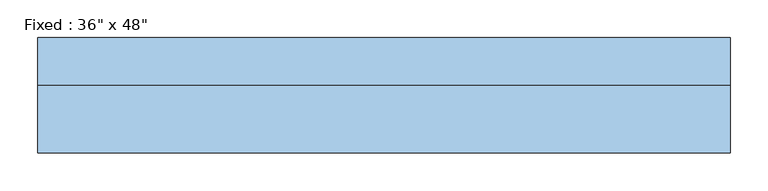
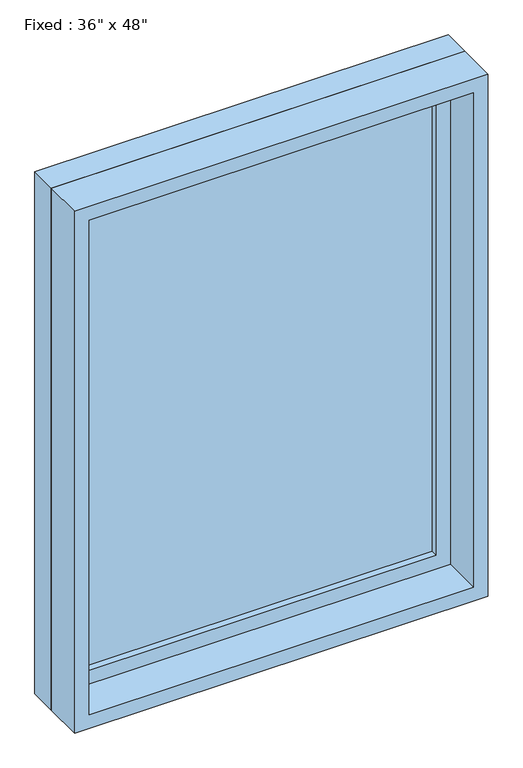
"""IFC4 building model written with IfcOpenShell, lengths in millimetres: window geometry."""

import ifcopenshell
import ifcopenshell.guid

model = None  # the IFC model being written
_history = None  # IfcOwnerHistory: only IFC2X3 demands one
_inside = {}  # id of a spatial element -> (the spatial element, [elements in it])
_under = {}  # id of a project, library or spatial element -> (it, [spatial elements below it])
_declared = {}  # id of a project -> (the project, [libraries it declares])
_typed = {}  # id of a type object -> (the type object, [elements of that type])
_made_of = {}  # id of a material, layer set ... -> (it, [elements and type objects made of it])


def new_model(schema):
    """Start an empty IFC model of exactly this schema.

    Asked for "IFC4X3", IfcOpenShell would pick the latest addendum, in which some entities
    have other attributes; the version numbers below select the first issue.
    IFC2X3 requires an IfcOwnerHistory on every rooted entity: one is made here for all.
    """
    global model, _history
    if schema == "IFC4X3":
        model = ifcopenshell.file(schema_version=(4, 3, 0, 0))
    else:
        model = ifcopenshell.file(schema=schema)
    _inside.clear()
    _under.clear()
    _declared.clear()
    _typed.clear()
    _made_of.clear()
    _history = None
    if model.schema == "IFC2X3":
        org = make("IfcOrganization", Name="unknown")
        user = make(
            "IfcPersonAndOrganization",
            ThePerson=make("IfcPerson", FamilyName="unknown"),
            TheOrganization=org,
        )
        app = make(
            "IfcApplication",
            ApplicationDeveloper=org,
            Version="unknown",
            ApplicationFullName="unknown",
            ApplicationIdentifier="unknown",
        )
        _history = make(
            "IfcOwnerHistory",
            OwningUser=user,
            OwningApplication=app,
            ChangeAction="ADDED",
            CreationDate=0,
        )
    return model


def make(cls, **values):
    """One entity of the class cls with the attributes given. An attribute that is None is left unset."""
    return model.create_entity(
        cls, **{name: value for name, value in values.items() if value is not None}
    )


def rooted(cls, **values):
    """An entity with a GlobalId (a new one), such as an element, a storey or a relation."""
    return make(cls, GlobalId=ifcopenshell.guid.new(), OwnerHistory=_history, **values)


def si_unit(unit_type, name, prefix=None):
    """IfcSIUnit, for example si_unit("LENGTHUNIT", "METRE", prefix="MILLI")."""
    return make("IfcSIUnit", UnitType=unit_type, Prefix=prefix, Name=name)


def assignment(units):
    """IfcUnitAssignment: the units of a project."""
    return None if units is None else make("IfcUnitAssignment", Units=units)


def point(xyz):
    """IfcCartesianPoint."""
    return None if xyz is None else make("IfcCartesianPoint", Coordinates=xyz)


def direction(xyz):
    """IfcDirection."""
    return None if xyz is None else make("IfcDirection", DirectionRatios=xyz)


def frame(location, z_axis=None, x_axis=None):
    """IfcAxis2Placement3D, a coordinate frame: its origin and axes. An axis left out is left unset."""
    return make(
        "IfcAxis2Placement3D",
        Location=point(location),
        Axis=direction(z_axis),
        RefDirection=direction(x_axis),
    )


def origin():
    """The frame at (0, 0, 0) with its axes left unset."""
    return frame((0.0, 0.0, 0.0))


def place(relative_to, where):
    """IfcLocalPlacement: puts the frame where relative to a parent placement (None: the world)."""
    return make(
        "IfcLocalPlacement", PlacementRelTo=relative_to, RelativePlacement=where
    )


def context(
    kind, dimensions, precision=None, world=None, true_north=None, identifier=None
):
    """IfcGeometricRepresentationContext, for example the 3D "Model" context."""
    return make(
        "IfcGeometricRepresentationContext",
        ContextIdentifier=identifier,
        ContextType=kind,
        CoordinateSpaceDimension=dimensions,
        Precision=precision,
        WorldCoordinateSystem=world,
        TrueNorth=true_north,
    )


def project(units=None, contexts=None):
    """IfcProject with its units and contexts."""
    return rooted(
        "IfcProject",
        Name="project",
        RepresentationContexts=contexts,
        UnitsInContext=assignment(units),
    )


def spatial(cls, under=None, at=None, **own):
    """A site, building, storey or space (cls), placed at a placement, below another one or the project."""
    s = rooted(cls, ObjectPlacement=at, **own)
    if under is not None:
        _under.setdefault(under.id(), (under, []))[1].append(s)
    return s


def polyline(points):
    """IfcPolyline through the points."""
    return make("IfcPolyline", Points=[point(p) for p in points])


def outline(outer, holes=None, kind="AREA"):
    """IfcArbitraryClosedProfileDef: a profile drawn as a closed curve; with holes, ...WithVoids."""
    if holes is None:
        return make("IfcArbitraryClosedProfileDef", ProfileType=kind, OuterCurve=outer)
    return make(
        "IfcArbitraryProfileDefWithVoids",
        ProfileType=kind,
        OuterCurve=outer,
        InnerCurves=holes,
    )


def extrude(swept, where, along, depth):
    """IfcExtrudedAreaSolid: the profile swept, set in the frame where, extruded along a direction by depth."""
    return make(
        "IfcExtrudedAreaSolid",
        SweptArea=swept,
        Position=where,
        ExtrudedDirection=direction(along),
        Depth=depth,
    )


def shape(context_of_items, identifier, shape_type, items):
    """IfcShapeRepresentation: the items that make up one representation, for example the "Body"."""
    return make(
        "IfcShapeRepresentation",
        ContextOfItems=context_of_items,
        RepresentationIdentifier=identifier,
        RepresentationType=shape_type,
        Items=items,
    )


def source(mapping_origin, context_of_items, identifier, shape_type, items):
    """IfcRepresentationMap: a shape defined once, which mapped items show again and again."""
    return make(
        "IfcRepresentationMap",
        MappingOrigin=mapping_origin,
        MappedRepresentation=shape(context_of_items, identifier, shape_type, items),
    )


def transform(
    local_origin,
    x_axis=None,
    y_axis=None,
    z_axis=None,
    scale=None,
    scale2=None,
    scale3=None,
    uniform=True,
):
    """IfcCartesianTransformationOperator3D, or its non-uniform kind. x_axis, y_axis, z_axis: its Axis1, 2, 3."""
    if uniform:
        return make(
            "IfcCartesianTransformationOperator3D",
            Axis1=direction(x_axis),
            Axis2=direction(y_axis),
            LocalOrigin=point(local_origin),
            Scale=scale,
            Axis3=direction(z_axis),
        )
    return make(
        "IfcCartesianTransformationOperator3DnonUniform",
        Axis1=direction(x_axis),
        Axis2=direction(y_axis),
        LocalOrigin=point(local_origin),
        Scale=scale,
        Axis3=direction(z_axis),
        Scale2=scale2,
        Scale3=scale3,
    )


def mapped(mapping_source, mapping_target):
    """IfcMappedItem: shows the shape of a source again, moved by a transform."""
    return make(
        "IfcMappedItem", MappingSource=mapping_source, MappingTarget=mapping_target
    )


def made_of(thing, what):
    """Note that an element or type object is made of a material, layer set ...; save() writes the relation."""
    if what is not None:
        _made_of.setdefault(what.id(), (what, []))[1].append(thing)
    return thing


def element(
    cls,
    number,
    at=None,
    inside=None,
    cuts=None,
    type_object=None,
    material=None,
    context=None,
    identifier="Body",
    shape_type=None,
    held_by="IfcProductDefinitionShape",
    body=None,
    shapes=None,
    **own,
):
    """One element of the class cls, such as IfcWall. Its Tag is "e" and its number.

    at: its placement. inside: the storey or other place that contains it. cuts: it is an
    opening in that element (IfcRelVoidsElement). A single representation is given by context,
    identifier, shape_type and body (its items); several are given by shapes. held_by: the class
    of the entity that holds the representations. save() writes the other relations.
    """
    e = rooted(cls, Tag="e%d" % number, ObjectPlacement=at, **own)
    if body is not None:
        shapes = [shape(context, identifier, shape_type, body)]
    if shapes is not None:
        e.Representation = make(held_by, Representations=shapes)
    if inside is not None:
        _inside.setdefault(inside.id(), (inside, []))[1].append(e)
    if cuts is not None:
        rooted(
            "IfcRelVoidsElement", RelatingBuildingElement=cuts, RelatedOpeningElement=e
        )
    if type_object is not None:
        _typed.setdefault(type_object.id(), (type_object, []))[1].append(e)
    return made_of(e, material)


def aggregate(whole, parts):
    """IfcRelAggregates: a whole, such as a stair, and the parts it consists of."""
    return rooted("IfcRelAggregates", RelatingObject=whole, RelatedObjects=parts)


def save(model, path):
    """Write the relations noted so far, then the file.

    IfcRelAggregates (storeys below a building ...), IfcRelContainedInSpatialStructure (elements
    in a storey), IfcRelDefinesByType, IfcRelAssociatesMaterial and IfcRelDeclares: one each for
    every whole, place, type object, material and project.
    """
    for whole, parts in _under.values():
        aggregate(whole, parts)
    for where, things in _inside.values():
        rooted(
            "IfcRelContainedInSpatialStructure",
            RelatedElements=things,
            RelatingStructure=where,
        )
    for kind, things in _typed.values():
        rooted("IfcRelDefinesByType", RelatedObjects=things, RelatingType=kind)
    for what, things in _made_of.values():
        rooted("IfcRelAssociatesMaterial", RelatedObjects=things, RelatingMaterial=what)
    for by, libraries in _declared.values():
        rooted("IfcRelDeclares", RelatingContext=by, RelatedDefinitions=libraries)
    model.write(path)


def window_d657a5cb(model_context):
    return source(origin(), model_context, "Body", "SweptSolid", [
        extrude(outline(polyline([(355.6, 28.575), (-431.8, 28.575), (-431.8, 41.275), (355.6, 41.275), (355.6, 28.575)])), frame((0.0, 0.0, 977.9), z_axis=(0.0, 0.0, 1.0), x_axis=(1.0, 0.0, 0.0)), (0.0, 0.0, 1.0), 1092.2),
        extrude(outline(polyline([(2114.55, -476.25), (933.45, -476.25), (933.45, 400.05), (2114.55, 400.05), (2114.55, -476.25)]), holes=[polyline([(2070.1, -431.8), (2070.1, 355.6), (977.9, 355.6), (977.9, -431.8), (2070.1, -431.8)])]), frame((0.0, 12.7, 0.0), z_axis=(0.0, 1.0, 0.0), x_axis=(0.0, 0.0, 1.0)), (0.0, 0.0, 1.0), 44.45),
        extrude(outline(polyline([(2133.6, -495.3), (914.4, -495.3), (914.4, 419.1), (2133.6, 419.1), (2133.6, -495.3)]), holes=[polyline([(2101.85, -463.55), (2101.85, 387.35), (946.15, 387.35), (946.15, -463.55), (2101.85, -463.55)])]), frame((0.0, -76.2, 0.0), z_axis=(0.0, 1.0, 0.0), x_axis=(0.0, 0.0, 1.0)), (0.0, 0.0, 1.0), 88.9),
        extrude(outline(polyline([(2133.6, 419.1), (2133.6, -495.3), (914.4, -495.3), (914.4, 419.1), (2133.6, 419.1)]), holes=[polyline([(2114.55, 400.05), (933.45, 400.05), (933.45, -476.25), (2114.55, -476.25), (2114.55, 400.05)])]), frame((0.0, 12.7, 0.0), z_axis=(0.0, 1.0, 0.0), x_axis=(0.0, 0.0, 1.0)), (0.0, 0.0, 1.0), 63.5),
    ])


if __name__ == "__main__":
    model = new_model("IFC4")
    model_context = context("Model", 3, world=origin())
    ifc_project = project(units=[si_unit("LENGTHUNIT", "METRE", prefix="MILLI")], contexts=[model_context])
    site = spatial("IfcSite", under=ifc_project)
    building = spatial("IfcBuilding", under=site)
    placement = place(None, origin())
    window_shape = window_d657a5cb(model_context)
    element("IfcWindow", 1, ObjectType="Fixed : 36\" x 48\"", at=placement, inside=building, context=model_context, shape_type="MappedRepresentation", body=[
        mapped(window_shape, transform((0.0, 0.0, 0.0), x_axis=(1.0, 0.0, 0.0), y_axis=(0.0, 1.0, 0.0), z_axis=(0.0, 0.0, 1.0))),
    ])
    save(model, "model.ifc")
